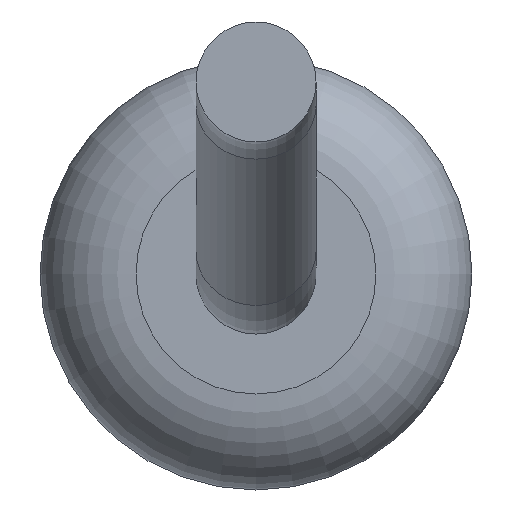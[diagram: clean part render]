
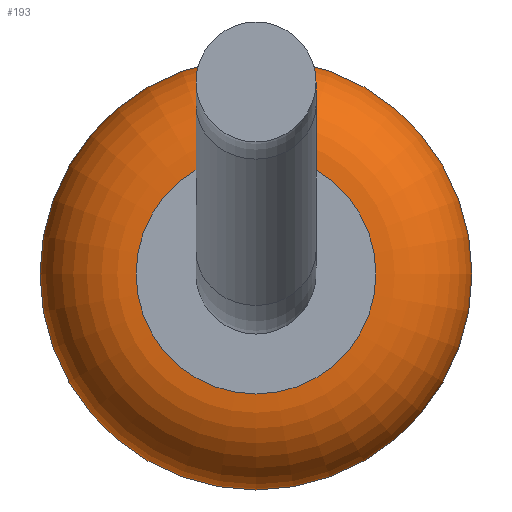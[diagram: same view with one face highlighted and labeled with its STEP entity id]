
A CAD part, left-side view. The second image highlights one B-rep face of the part: STEP entity #193.
In plain terms, the highlighted toroidal (fillet/blend) face has major radius 0.5 mm and minor radius 0.4 mm.
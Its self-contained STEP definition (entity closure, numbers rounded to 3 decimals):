
#193=ADVANCED_FACE('',(#398,#400),#402,.T.);
#398=FACE_OUTER_BOUND('',#399,.T.);
#399=EDGE_LOOP('',(#497));
#400=FACE_OUTER_BOUND('',#401,.T.);
#401=EDGE_LOOP('',(#498));
#402=TOROIDAL_SURFACE('',#403,0.5,0.4);
#403=AXIS2_PLACEMENT_3D('',#404,#405,#406);
#404=CARTESIAN_POINT('',(-1.25,0.,0.));
#405=DIRECTION('',(-1.,0.,0.));
#406=DIRECTION('',(0.,0.,1.));
#497=ORIENTED_EDGE('',*,*,#526,.T.);
#498=ORIENTED_EDGE('',*,*,#527,.F.);
#526=EDGE_CURVE('',#562,#562,#563,.T.);
#527=EDGE_CURVE('',#564,#564,#565,.T.);
#562=VERTEX_POINT('',#648);
#563=CIRCLE('',#649,0.9);
#564=VERTEX_POINT('',#653);
#565=CIRCLE('',#654,0.5);
#648=CARTESIAN_POINT('',(-1.25,0.,0.9));
#649=AXIS2_PLACEMENT_3D('',#650,#651,#652);
#650=CARTESIAN_POINT('',(-1.25,0.,0.));
#651=DIRECTION('',(-1.,0.,0.));
#652=DIRECTION('',(0.,0.,1.));
#653=CARTESIAN_POINT('',(-1.65,0.,0.5));
#654=AXIS2_PLACEMENT_3D('',#655,#656,#657);
#655=CARTESIAN_POINT('',(-1.65,0.,0.));
#656=DIRECTION('',(-1.,0.,0.));
#657=DIRECTION('',(0.,0.,1.));
